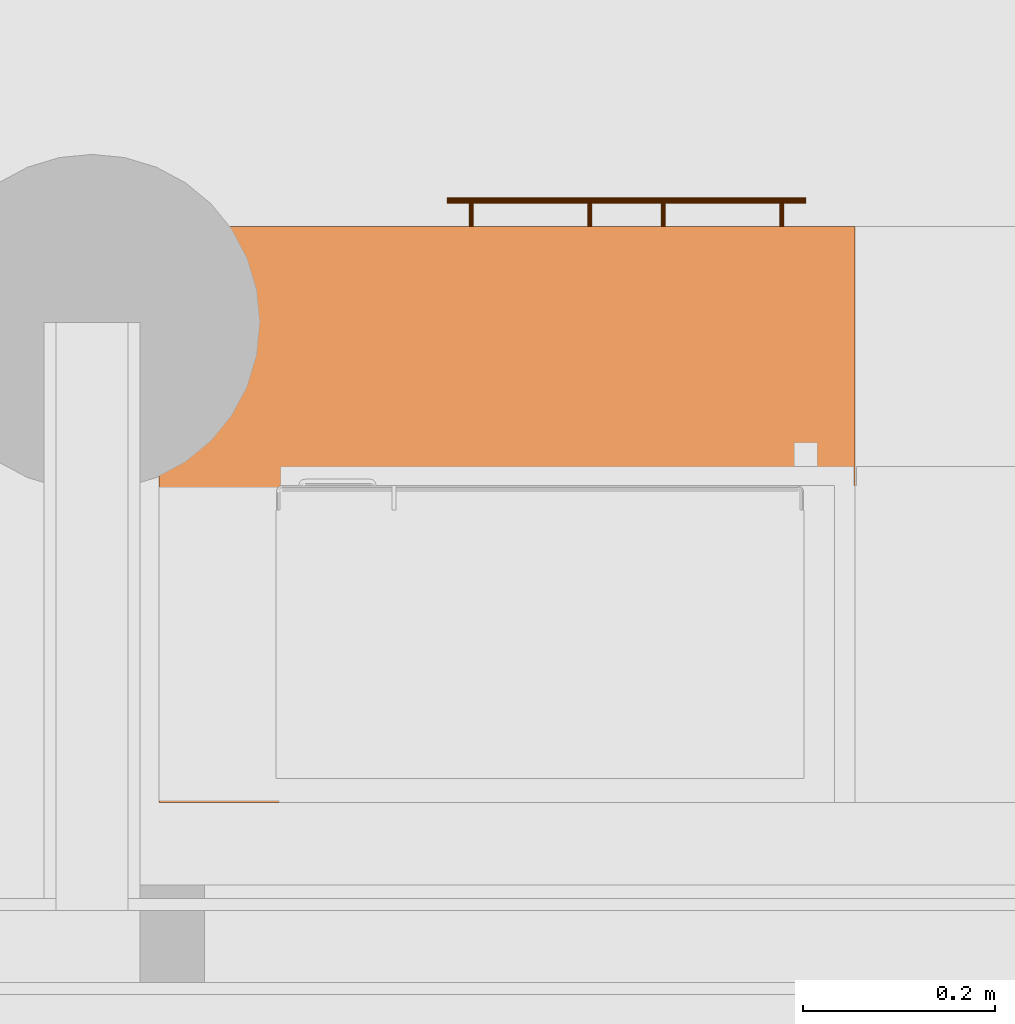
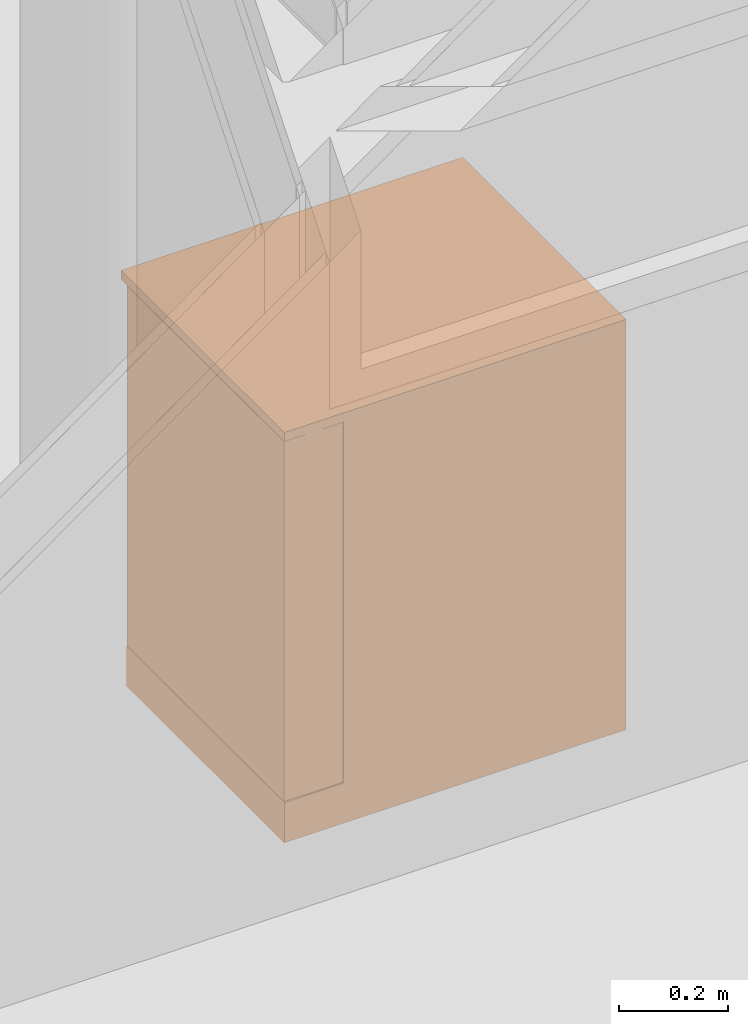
# One storey, part 158 of 167: 1 proxy.
"""IFC2X3 building model written with IfcOpenShell, lengths in millimetres."""

import ifcopenshell
import ifcopenshell.guid

model = None  # the IFC model being written
_history = None  # IfcOwnerHistory: only IFC2X3 demands one
_inside = {}  # id of a spatial element -> (the spatial element, [elements in it])
_under = {}  # id of a project, library or spatial element -> (it, [spatial elements below it])
_declared = {}  # id of a project -> (the project, [libraries it declares])
_typed = {}  # id of a type object -> (the type object, [elements of that type])
_made_of = {}  # id of a material, layer set ... -> (it, [elements and type objects made of it])


def new_model(schema):
    """Start an empty IFC model of exactly this schema.

    Asked for "IFC4X3", IfcOpenShell would pick the latest addendum, in which some entities
    have other attributes; the version numbers below select the first issue.
    IFC2X3 requires an IfcOwnerHistory on every rooted entity: one is made here for all.
    """
    global model, _history
    if schema == "IFC4X3":
        model = ifcopenshell.file(schema_version=(4, 3, 0, 0))
    else:
        model = ifcopenshell.file(schema=schema)
    _inside.clear()
    _under.clear()
    _declared.clear()
    _typed.clear()
    _made_of.clear()
    _history = None
    if model.schema == "IFC2X3":
        org = make("IfcOrganization", Name="unknown")
        user = make(
            "IfcPersonAndOrganization",
            ThePerson=make("IfcPerson", FamilyName="unknown"),
            TheOrganization=org,
        )
        app = make(
            "IfcApplication",
            ApplicationDeveloper=org,
            Version="unknown",
            ApplicationFullName="unknown",
            ApplicationIdentifier="unknown",
        )
        _history = make(
            "IfcOwnerHistory",
            OwningUser=user,
            OwningApplication=app,
            ChangeAction="ADDED",
            CreationDate=0,
        )
    return model


def make(cls, **values):
    """One entity of the class cls with the attributes given. An attribute that is None is left unset."""
    return model.create_entity(
        cls, **{name: value for name, value in values.items() if value is not None}
    )


def entity(cls, *values):
    """Any entity or typed value of the class cls, its attributes in the order of the schema. None: left unset."""
    e = model.create_entity(cls)
    for i, value in enumerate(values):
        if value is not None:
            e[i] = value
    return e


def rooted(cls, **values):
    """An entity with a GlobalId (a new one), such as an element, a storey or a relation."""
    return make(cls, GlobalId=ifcopenshell.guid.new(), OwnerHistory=_history, **values)


def si_unit(unit_type, name, prefix=None):
    """IfcSIUnit, for example si_unit("LENGTHUNIT", "METRE", prefix="MILLI")."""
    return make("IfcSIUnit", UnitType=unit_type, Prefix=prefix, Name=name)


def converted_unit(unit_type, name, factor, base, dimensions=None, offset=None):
    """IfcConversionBasedUnit, such as the inch: factor (a typed value) times the base unit."""
    return make(
        "IfcConversionBasedUnit"
        if offset is None
        else "IfcConversionBasedUnitWithOffset",
        ConversionOffset=offset,
        Dimensions=None
        if dimensions is None
        else entity("IfcDimensionalExponents", *dimensions),
        UnitType=unit_type,
        Name=name,
        ConversionFactor=make(
            "IfcMeasureWithUnit", ValueComponent=factor, UnitComponent=base
        ),
    )


def derived_unit(unit_type, elements):
    """IfcDerivedUnit: a product of units, each with its exponent."""
    return make(
        "IfcDerivedUnit",
        Elements=[
            make("IfcDerivedUnitElement", Unit=unit, Exponent=power)
            for unit, power in elements
        ],
        UnitType=unit_type,
    )


def money_unit(currency):
    """IfcMonetaryUnit."""
    return make("IfcMonetaryUnit", Currency=currency)


def assignment(units):
    """IfcUnitAssignment: the units of a project."""
    return None if units is None else make("IfcUnitAssignment", Units=units)


def point(xyz):
    """IfcCartesianPoint."""
    return None if xyz is None else make("IfcCartesianPoint", Coordinates=xyz)


def direction(xyz):
    """IfcDirection."""
    return None if xyz is None else make("IfcDirection", DirectionRatios=xyz)


def frame(location, z_axis=None, x_axis=None):
    """IfcAxis2Placement3D, a coordinate frame: its origin and axes. An axis left out is left unset."""
    return make(
        "IfcAxis2Placement3D",
        Location=point(location),
        Axis=direction(z_axis),
        RefDirection=direction(x_axis),
    )


def origin_with_axes():
    """The frame at (0, 0, 0) with the z axis (0, 0, 1) and the x axis (1, 0, 0) written out."""
    return frame((0.0, 0.0, 0.0), z_axis=(0.0, 0.0, 1.0), x_axis=(1.0, 0.0, 0.0))


def place(relative_to, where):
    """IfcLocalPlacement: puts the frame where relative to a parent placement (None: the world)."""
    return make(
        "IfcLocalPlacement", PlacementRelTo=relative_to, RelativePlacement=where
    )


def context(
    kind, dimensions, precision=None, world=None, true_north=None, identifier=None
):
    """IfcGeometricRepresentationContext, for example the 3D "Model" context."""
    return make(
        "IfcGeometricRepresentationContext",
        ContextIdentifier=identifier,
        ContextType=kind,
        CoordinateSpaceDimension=dimensions,
        Precision=precision,
        WorldCoordinateSystem=world,
        TrueNorth=true_north,
    )


def subcontext(parent, identifier, kind, view, scale=None):
    """IfcGeometricRepresentationSubContext, for example "Body" below "Model"."""
    return make(
        "IfcGeometricRepresentationSubContext",
        ContextIdentifier=identifier,
        ContextType=kind,
        ParentContext=parent,
        TargetScale=scale,
        TargetView=view,
    )


def project(units=None, contexts=None):
    """IfcProject with its units and contexts."""
    return rooted(
        "IfcProject",
        Name="project",
        RepresentationContexts=contexts,
        UnitsInContext=assignment(units),
    )


def spatial(cls, under=None, at=None, **own):
    """A site, building, storey or space (cls), placed at a placement, below another one or the project."""
    s = rooted(cls, ObjectPlacement=at, **own)
    if under is not None:
        _under.setdefault(under.id(), (under, []))[1].append(s)
    return s


def faces_of(points, faces, orient=None, outer=None):
    """IfcFace entities. A face is a list of loops; a loop is a list of indices into points, from 0.

    orient and outer hold one flag for each loop. By default every Orientation is true, the
    first loop of a face is its IfcFaceOuterBound and the others are IfcFaceBound.
    """
    made = []
    for i, loops in enumerate(faces):
        bounds = []
        for j, loop in enumerate(loops):
            is_outer = j == 0 if outer is None else outer[i][j]
            bounds.append(
                make(
                    "IfcFaceOuterBound" if is_outer else "IfcFaceBound",
                    Bound=make("IfcPolyLoop", Polygon=[points[k] for k in loop]),
                    Orientation=True if orient is None else orient[i][j],
                )
            )
        made.append(make("IfcFace", Bounds=bounds))
    return made


def open_shell(faces, orient=None, outer=None):
    """The faces of one IfcOpenShell. surface_model builds it on its shared points."""
    return ("IfcOpenShell", faces, orient, outer)


def faceted_brep(points, faces, orient=None, outer=None, voids=None):
    """IfcFacetedBrep: a solid bounded by flat faces; with voids (closed shells), ...WithVoids."""
    shared = [point(p) for p in points]
    hull = make("IfcClosedShell", CfsFaces=faces_of(shared, faces, orient, outer))
    if voids is None:
        return make("IfcFacetedBrep", Outer=hull)
    return make(
        "IfcFacetedBrepWithVoids",
        Outer=hull,
        Voids=[
            make(cls, CfsFaces=faces_of(shared, fs, o, b)) for cls, fs, o, b in voids
        ],
    )


def surface_model(cls, points, shells):
    """IfcFaceBasedSurfaceModel or IfcShellBasedSurfaceModel (cls): surfaces that need not close."""
    shared = [point(p) for p in points]
    made = [make(c, CfsFaces=faces_of(shared, fs, o, b)) for c, fs, o, b in shells]
    if cls == "IfcFaceBasedSurfaceModel":
        return make(cls, FbsmFaces=made)
    return make(cls, SbsmBoundary=made)


def shape(context_of_items, identifier, shape_type, items):
    """IfcShapeRepresentation: the items that make up one representation, for example the "Body"."""
    return make(
        "IfcShapeRepresentation",
        ContextOfItems=context_of_items,
        RepresentationIdentifier=identifier,
        RepresentationType=shape_type,
        Items=items,
    )


def made_of(thing, what):
    """Note that an element or type object is made of a material, layer set ...; save() writes the relation."""
    if what is not None:
        _made_of.setdefault(what.id(), (what, []))[1].append(thing)
    return thing


def type_object(cls, material=None, **own):
    """A type object (cls), such as IfcWallType, which elements share."""
    return made_of(rooted(cls, **own), material)


def element(
    cls,
    number,
    at=None,
    inside=None,
    cuts=None,
    type_object=None,
    material=None,
    context=None,
    identifier="Body",
    shape_type=None,
    held_by="IfcProductDefinitionShape",
    body=None,
    shapes=None,
    **own,
):
    """One element of the class cls, such as IfcWall. Its Tag is "e" and its number.

    at: its placement. inside: the storey or other place that contains it. cuts: it is an
    opening in that element (IfcRelVoidsElement). A single representation is given by context,
    identifier, shape_type and body (its items); several are given by shapes. held_by: the class
    of the entity that holds the representations. save() writes the other relations.
    """
    e = rooted(cls, Tag="e%d" % number, ObjectPlacement=at, **own)
    if body is not None:
        shapes = [shape(context, identifier, shape_type, body)]
    if shapes is not None:
        e.Representation = make(held_by, Representations=shapes)
    if inside is not None:
        _inside.setdefault(inside.id(), (inside, []))[1].append(e)
    if cuts is not None:
        rooted(
            "IfcRelVoidsElement", RelatingBuildingElement=cuts, RelatedOpeningElement=e
        )
    if type_object is not None:
        _typed.setdefault(type_object.id(), (type_object, []))[1].append(e)
    return made_of(e, material)


def aggregate(whole, parts):
    """IfcRelAggregates: a whole, such as a stair, and the parts it consists of."""
    return rooted("IfcRelAggregates", RelatingObject=whole, RelatedObjects=parts)


def save(model, path):
    """Write the relations noted so far, then the file.

    IfcRelAggregates (storeys below a building ...), IfcRelContainedInSpatialStructure (elements
    in a storey), IfcRelDefinesByType, IfcRelAssociatesMaterial and IfcRelDeclares: one each for
    every whole, place, type object, material and project.
    """
    for whole, parts in _under.values():
        aggregate(whole, parts)
    for where, things in _inside.values():
        rooted(
            "IfcRelContainedInSpatialStructure",
            RelatedElements=things,
            RelatingStructure=where,
        )
    for kind, things in _typed.values():
        rooted("IfcRelDefinesByType", RelatedObjects=things, RelatingType=kind)
    for what, things in _made_of.values():
        rooted("IfcRelAssociatesMaterial", RelatedObjects=things, RelatingMaterial=what)
    for by, libraries in _declared.values():
        rooted("IfcRelDeclares", RelatingContext=by, RelatedDefinitions=libraries)
    model.write(path)


model = new_model("IFC2X3")

# Units and contexts
model_context = context("Model", 3, precision=0.01, world=origin_with_axes(), true_north=direction((0.0, 1.0)))
plan_context = context("Plan", 3, precision=0.01, world=origin_with_axes(), true_north=direction((0.0, 1.0)))
body_context = subcontext(model_context, "Body", "Model", "MODEL_VIEW")
ifc_project = project(units=[si_unit("LENGTHUNIT", "METRE", prefix="MILLI"), si_unit("AREAUNIT", "SQUARE_METRE"), si_unit("VOLUMEUNIT", "CUBIC_METRE"), converted_unit("PLANEANGLEUNIT", "DEGREE", entity("IfcPlaneAngleMeasure", 0.0174532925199), si_unit("PLANEANGLEUNIT", "RADIAN"), dimensions=[0, 0, 0, 0, 0, 0, 0]), si_unit("SOLIDANGLEUNIT", "STERADIAN"), money_unit("EUR"), converted_unit("TIMEUNIT", "Year", entity("IfcTimeMeasure", 31556926.0), si_unit("TIMEUNIT", "SECOND"), dimensions=[0, 0, 1, 0, 0, 0, 0]), si_unit("MASSUNIT", "GRAM", prefix="KILO"), si_unit("THERMODYNAMICTEMPERATUREUNIT", "DEGREE_CELSIUS"), si_unit("LUMINOUSINTENSITYUNIT", "LUMEN"), si_unit("ENERGYUNIT", "JOULE", prefix="MEGA"), derived_unit("THERMALCONDUCTANCEUNIT", [(si_unit("POWERUNIT", "WATT"), 1), (si_unit("LENGTHUNIT", "METRE"), -1), (si_unit("THERMODYNAMICTEMPERATUREUNIT", "KELVIN"), -1)]), derived_unit("SPECIFICHEATCAPACITYUNIT", [(si_unit("ENERGYUNIT", "JOULE"), 1), (si_unit("MASSUNIT", "GRAM", prefix="KILO"), -1), (si_unit("THERMODYNAMICTEMPERATUREUNIT", "KELVIN"), -1)]), derived_unit("MASSDENSITYUNIT", [(si_unit("MASSUNIT", "GRAM", prefix="KILO"), 1), (si_unit("VOLUMEUNIT", "CUBIC_METRE"), -1)])], contexts=[model_context, plan_context])

# Site, building, storey
site_placement = place(None, origin_with_axes())
site = spatial("IfcSite", under=ifc_project, at=site_placement, Name="Site", CompositionType="ELEMENT")
building_placement = place(site_placement, origin_with_axes())
building = spatial("IfcBuilding", under=site, at=building_placement, Name="Naam gebouw", CompositionType="ELEMENT")
storey_placement = place(building_placement, origin_with_axes())
storey = spatial("IfcBuildingStorey", under=building, at=storey_placement, Name="Begane grond", CompositionType="ELEMENT", Elevation=0.0)

# Proxy
building_element_proxy_type = type_object("IfcBuildingElementProxyType", Name="Kast basis 1D 24", PredefinedType="NOTDEFINED")
proxy_placement = place(storey_placement, frame((36069.9999937, 42449.9999795, 0.0), z_axis=(0.0, 0.0, 1.0), x_axis=(-1.0, 0.0, 0.0)))
element("IfcBuildingElementProxy", 1, at=proxy_placement, inside=storey, type_object=building_element_proxy_type, Name="__Object-x", context=body_context, shape_type="SurfaceModel", body=[
    faceted_brep([(-145.0, 20.0, 760.0), (-145.0, 20.0, 780.0), (-705.0, 20.0, 780.0), (-705.0, 20.0, 760.0), (-145.0, 580.0, 760.0), (-145.0, 580.0, 780.0), (-705.0, 580.0, 780.0), (-705.0, 580.0, 760.0)], [[[0, 1, 2, 3]], [[4, 5, 1, 0]], [[1, 5, 6, 2]], [[3, 2, 6, 7]], [[0, 3, 7, 4]], [[7, 6, 5, 4]]]),
    faceted_brep([(0.0, 20.0, 0.0), (0.0, 20.0, 90.0), (-725.0, 20.0, 90.0), (-725.0, 20.0, 0.0), (0.0, 600.0, 0.0), (0.0, 600.0, 90.0), (-725.0, 600.0, 90.0), (-725.0, 600.0, 0.0)], [[[0, 1, 2, 3]], [[4, 5, 1, 0]], [[1, 5, 6, 2]], [[3, 2, 6, 7]], [[0, 3, 7, 4]], [[7, 6, 5, 4]]]),
    faceted_brep([(-125.0, 20.0, 880.0), (-125.0, 20.0, 900.0), (-145.0, 20.0, 900.0), (-145.0, 20.0, 880.0), (-125.0, 600.0, 880.0), (-125.0, 600.0, 900.0), (-145.0, 600.0, 900.0), (-705.0, 600.0, 900.0), (-725.0, 600.0, 900.0), (-725.0, 20.0, 900.0), (-705.0, 20.0, 900.0), (-705.0, 20.0, 880.0), (-725.0, 20.0, 880.0), (-725.0, 600.0, 880.0), (-705.0, 600.0, 880.0), (-145.0, 600.0, 880.0)], [[[0, 1, 2, 3]], [[4, 5, 1, 0]], [[1, 5, 6, 7, 8, 9, 10, 2]], [[3, 2, 10, 11]], [[0, 3, 11, 12, 13, 14, 15, 4]], [[15, 6, 5, 4]], [[14, 7, 6, 15]], [[13, 8, 7, 14]], [[12, 9, 8, 13]], [[11, 10, 9, 12]]]),
    faceted_brep([(-125.0, 20.0, 90.0), (-125.0, 20.0, 110.0), (-145.0, 20.0, 110.0), (-145.0, 20.0, 90.0), (-125.0, 600.0, 90.0), (-125.0, 600.0, 110.0), (-145.0, 600.0, 110.0), (-705.0, 600.0, 110.0), (-725.0, 600.0, 110.0), (-725.0, 20.0, 110.0), (-705.0, 20.0, 110.0), (-705.0, 20.0, 90.0), (-725.0, 20.0, 90.0), (-725.0, 600.0, 90.0), (-705.0, 600.0, 90.0), (-145.0, 600.0, 90.0)], [[[0, 1, 2, 3]], [[4, 5, 1, 0]], [[1, 5, 6, 7, 8, 9, 10, 2]], [[3, 2, 10, 11]], [[0, 3, 11, 12, 13, 14, 15, 4]], [[15, 6, 5, 4]], [[14, 7, 6, 15]], [[13, 8, 7, 14]], [[12, 9, 8, 13]], [[11, 10, 9, 12]]]),
    faceted_brep([(-125.0, 20.0, 110.0), (-125.0, 20.0, 880.0), (-145.0, 20.0, 880.0), (-145.0, 20.0, 110.0), (-125.0, 600.0, 110.0), (-125.0, 600.0, 880.0), (-725.0, 600.0, 880.0), (-725.0, 20.0, 880.0), (-705.0, 20.0, 880.0), (-705.0, 580.0, 880.0), (-145.0, 580.0, 880.0), (-145.0, 580.0, 110.0), (-705.0, 580.0, 110.0), (-705.0, 20.0, 110.0), (-725.0, 20.0, 110.0), (-725.0, 600.0, 110.0)], [[[0, 1, 2, 3]], [[4, 5, 1, 0]], [[1, 5, 6, 7, 8, 9, 10, 2]], [[3, 2, 10, 11]], [[0, 3, 11, 12, 13, 14, 15, 4]], [[15, 6, 5, 4]], [[14, 7, 6, 15]], [[13, 8, 7, 14]], [[12, 9, 8, 13]], [[11, 10, 9, 12]]]),
    faceted_brep([(-705.0, 20.0, 410.0), (-705.0, 20.0, 430.0), (-705.0, 580.0, 430.0), (-705.0, 580.0, 410.0), (-145.0, 20.0, 410.0), (-145.0, 20.0, 430.0), (-145.0, 580.0, 430.0), (-145.0, 580.0, 410.0)], [[[0, 1, 2, 3]], [[4, 5, 1, 0]], [[1, 5, 6, 2]], [[3, 2, 6, 7]], [[0, 3, 7, 4]], [[7, 6, 5, 4]]]),
    faceted_brep([(0.0, 0.0, 900.0), (0.0, 0.0, 920.0), (-725.0, 0.0, 920.0), (-725.0, 0.0, 900.0), (0.0, 600.0, 900.0), (0.0, 600.0, 920.0), (-725.0, 600.0, 920.0), (-725.0, 600.0, 900.0)], [[[0, 1, 2, 3]], [[4, 5, 1, 0]], [[1, 5, 6, 2]], [[3, 2, 6, 7]], [[0, 3, 7, 4]], [[7, 6, 5, 4]]]),
    faceted_brep([(-126.5, 20.0, 771.5), (-126.5, 0.0, 771.5), (-723.5, 0.0, 771.5), (-723.5, 20.0, 771.5), (-126.5, 20.0, 898.5), (-126.5, 0.0, 898.5), (-723.5, 0.0, 898.5), (-723.5, 20.0, 898.5)], [[[0, 1, 2, 3]], [[4, 5, 1, 0]], [[1, 5, 6, 2]], [[3, 2, 6, 7]], [[0, 3, 7, 4]], [[7, 6, 5, 4]]]),
    faceted_brep([(-300.0, -28.1480502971, 832.228361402), (-300.0, -27.0, 832.0), (-300.0, -25.8519497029, 832.228361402), (-300.0, -24.8786796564, 832.878679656), (-300.0, -24.2283614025, 833.851949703), (-300.0, -24.0, 835.0), (-300.0, -24.2283614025, 836.148050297), (-300.0, -24.8786796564, 837.121320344), (-300.0, -25.8519497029, 837.771638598), (-300.0, -27.0, 838.0), (-300.0, -28.1480502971, 837.771638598), (-300.0, -29.1213203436, 837.121320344), (-300.0, -29.7716385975, 836.148050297), (-300.0, -30.0, 835.0), (-300.0, -29.7716385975, 833.851949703), (-300.0, -29.1213203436, 832.878679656), (-550.0, -28.1480502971, 832.228361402), (-550.0, -27.0, 832.0), (-550.0, -25.8519497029, 832.228361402), (-550.0, -24.8786796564, 832.878679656), (-550.0, -24.2283614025, 833.851949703), (-550.0, -24.0, 835.0), (-550.0, -24.2283614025, 836.148050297), (-550.0, -24.8786796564, 837.121320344), (-550.0, -25.8519497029, 837.771638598), (-550.0, -27.0, 838.0), (-550.0, -28.1480502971, 837.771638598), (-550.0, -29.1213203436, 837.121320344), (-550.0, -29.7716385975, 836.148050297), (-550.0, -30.0, 835.0), (-550.0, -29.7716385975, 833.851949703), (-550.0, -29.1213203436, 832.878679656)], [[[0, 1, 2, 3, 4, 5, 6, 7, 8, 9, 10, 11, 12, 13, 14, 15]], [[0, 16, 17, 1]], [[1, 17, 18, 2]], [[2, 18, 19, 3]], [[3, 19, 20, 4]], [[4, 20, 21, 5]], [[5, 21, 22, 6]], [[6, 22, 23, 7]], [[7, 23, 24, 8]], [[8, 24, 25, 9]], [[9, 25, 26, 10]], [[10, 26, 27, 11]], [[11, 27, 28, 12]], [[12, 28, 29, 13]], [[13, 29, 30, 14]], [[14, 30, 31, 15]], [[15, 31, 16, 0]], [[16, 31, 30, 29, 28, 27, 26, 25, 24, 23, 22, 21, 20, 19, 18, 17]]]),
    surface_model("IfcShellBasedSurfaceModel", [(-322.690301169, -24.156637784, 834.043291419), (-322.690301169, 0.0, 834.043291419), (-322.5, 0.0, 835.0), (-322.5, -24.0, 835.0), (-323.232233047, -24.5761600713, 833.232233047), (-323.232233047, 0.0, 833.232233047), (-324.043291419, 0.0, 832.690301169), (-325.0, 0.0, 832.5), (-325.956708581, 0.0, 832.690301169), (-326.767766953, 0.0, 833.232233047), (-327.309698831, 0.0, 834.043291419), (-327.5, 0.0, 835.0), (-327.309698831, 0.0, 835.956708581), (-326.767766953, 0.0, 836.767766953), (-325.956708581, 0.0, 837.309698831), (-325.0, 0.0, 837.5), (-324.043291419, 0.0, 837.309698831), (-323.232233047, 0.0, 836.767766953), (-322.690301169, 0.0, 835.956708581), (-322.690301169, -24.156637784, 835.956708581), (-324.043291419, -25.0855049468, 832.690301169), (-325.0, -25.3416876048, 832.5), (-325.956708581, -25.0855049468, 832.690301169), (-326.767766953, -24.5761600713, 833.232233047), (-327.309698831, -24.156637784, 834.043291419), (-327.5, -24.0, 835.0), (-327.309698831, -24.156637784, 835.956708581), (-326.767766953, -24.5761600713, 836.767766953), (-325.956708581, -25.0855049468, 837.309698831), (-325.0, -25.3416876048, 837.5), (-324.043291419, -25.0855049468, 837.309698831), (-323.232233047, -24.5761600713, 836.767766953)], [open_shell([[[0, 1, 2, 3]], [[4, 5, 1, 0]], [[1, 5, 6, 7, 8, 9, 10, 11, 12, 13, 14, 15, 16, 17, 18, 2]], [[3, 2, 18, 19]], [[20, 6, 5, 4]], [[21, 7, 6, 20]], [[22, 8, 7, 21]], [[23, 9, 8, 22]], [[24, 10, 9, 23]], [[25, 11, 10, 24]], [[26, 12, 11, 25]], [[27, 13, 12, 26]], [[28, 14, 13, 27]], [[29, 15, 14, 28]], [[30, 16, 15, 29]], [[31, 17, 16, 30]], [[19, 18, 17, 31]]])]),
    surface_model("IfcShellBasedSurfaceModel", [(-522.690301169, -24.156637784, 834.043291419), (-522.690301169, 0.0, 834.043291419), (-522.5, 0.0, 835.0), (-522.5, -24.0, 835.0), (-523.232233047, -24.5761600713, 833.232233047), (-523.232233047, 0.0, 833.232233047), (-524.043291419, 0.0, 832.690301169), (-525.0, 0.0, 832.5), (-525.956708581, 0.0, 832.690301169), (-526.767766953, 0.0, 833.232233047), (-527.309698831, 0.0, 834.043291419), (-527.5, 0.0, 835.0), (-527.309698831, 0.0, 835.956708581), (-526.767766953, 0.0, 836.767766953), (-525.956708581, 0.0, 837.309698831), (-525.0, 0.0, 837.5), (-524.043291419, 0.0, 837.309698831), (-523.232233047, 0.0, 836.767766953), (-522.690301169, 0.0, 835.956708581), (-522.690301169, -24.156637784, 835.956708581), (-524.043291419, -25.0855049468, 832.690301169), (-525.0, -25.3416876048, 832.5), (-525.956708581, -25.0855049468, 832.690301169), (-526.767766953, -24.5761600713, 833.232233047), (-527.309698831, -24.156637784, 834.043291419), (-527.5, -24.0, 835.0), (-527.309698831, -24.156637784, 835.956708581), (-526.767766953, -24.5761600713, 836.767766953), (-525.956708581, -25.0855049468, 837.309698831), (-525.0, -25.3416876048, 837.5), (-524.043291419, -25.0855049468, 837.309698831), (-523.232233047, -24.5761600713, 836.767766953)], [open_shell([[[0, 1, 2, 3]], [[4, 5, 1, 0]], [[1, 5, 6, 7, 8, 9, 10, 11, 12, 13, 14, 15, 16, 17, 18, 2]], [[3, 2, 18, 19]], [[20, 6, 5, 4]], [[21, 7, 6, 20]], [[22, 8, 7, 21]], [[23, 9, 8, 22]], [[24, 10, 9, 23]], [[25, 11, 10, 24]], [[26, 12, 11, 25]], [[27, 13, 12, 26]], [[28, 14, 13, 27]], [[29, 15, 14, 28]], [[30, 16, 15, 29]], [[31, 17, 16, 30]], [[19, 18, 17, 31]]])]),
    faceted_brep([(-126.5, 20.0, 91.5), (-126.5, 0.0, 91.5), (-723.5, 0.0, 91.5), (-723.5, 20.0, 91.5), (-126.5, 20.0, 768.5), (-126.5, 0.0, 768.5), (-723.5, 0.0, 768.5), (-723.5, 20.0, 768.5)], [[[0, 1, 2, 3]], [[4, 5, 1, 0]], [[1, 5, 6, 2]], [[3, 2, 6, 7]], [[0, 3, 7, 4]], [[7, 6, 5, 4]]]),
    faceted_brep([(-423.5, -28.1480502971, 685.728361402), (-423.5, -27.0, 685.5), (-423.5, -25.8519497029, 685.728361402), (-423.5, -24.8786796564, 686.378679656), (-423.5, -24.2283614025, 687.351949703), (-423.5, -24.0, 688.5), (-423.5, -24.2283614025, 689.648050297), (-423.5, -24.8786796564, 690.621320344), (-423.5, -25.8519497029, 691.271638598), (-423.5, -27.0, 691.5), (-423.5, -28.1480502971, 691.271638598), (-423.5, -29.1213203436, 690.621320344), (-423.5, -29.7716385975, 689.648050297), (-423.5, -30.0, 688.5), (-423.5, -29.7716385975, 687.351949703), (-423.5, -29.1213203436, 686.378679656), (-673.5, -28.1480502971, 685.728361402), (-673.5, -27.0, 685.5), (-673.5, -25.8519497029, 685.728361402), (-673.5, -24.8786796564, 686.378679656), (-673.5, -24.2283614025, 687.351949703), (-673.5, -24.0, 688.5), (-673.5, -24.2283614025, 689.648050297), (-673.5, -24.8786796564, 690.621320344), (-673.5, -25.8519497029, 691.271638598), (-673.5, -27.0, 691.5), (-673.5, -28.1480502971, 691.271638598), (-673.5, -29.1213203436, 690.621320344), (-673.5, -29.7716385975, 689.648050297), (-673.5, -30.0, 688.5), (-673.5, -29.7716385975, 687.351949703), (-673.5, -29.1213203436, 686.378679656)], [[[0, 1, 2, 3, 4, 5, 6, 7, 8, 9, 10, 11, 12, 13, 14, 15]], [[0, 16, 17, 1]], [[1, 17, 18, 2]], [[2, 18, 19, 3]], [[3, 19, 20, 4]], [[4, 20, 21, 5]], [[5, 21, 22, 6]], [[6, 22, 23, 7]], [[7, 23, 24, 8]], [[8, 24, 25, 9]], [[9, 25, 26, 10]], [[10, 26, 27, 11]], [[11, 27, 28, 12]], [[12, 28, 29, 13]], [[13, 29, 30, 14]], [[14, 30, 31, 15]], [[15, 31, 16, 0]], [[16, 31, 30, 29, 28, 27, 26, 25, 24, 23, 22, 21, 20, 19, 18, 17]]]),
    surface_model("IfcShellBasedSurfaceModel", [(-446.190301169, -24.156637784, 687.543291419), (-446.190301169, 0.0, 687.543291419), (-446.0, 0.0, 688.5), (-446.0, -24.0, 688.5), (-446.732233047, -24.5761600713, 686.732233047), (-446.732233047, 0.0, 686.732233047), (-447.543291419, 0.0, 686.190301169), (-448.5, 0.0, 686.0), (-449.456708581, 0.0, 686.190301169), (-450.267766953, 0.0, 686.732233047), (-450.809698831, 0.0, 687.543291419), (-451.0, 0.0, 688.5), (-450.809698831, 0.0, 689.456708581), (-450.267766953, 0.0, 690.267766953), (-449.456708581, 0.0, 690.809698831), (-448.5, 0.0, 691.0), (-447.543291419, 0.0, 690.809698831), (-446.732233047, 0.0, 690.267766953), (-446.190301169, 0.0, 689.456708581), (-446.190301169, -24.156637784, 689.456708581), (-447.543291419, -25.0855049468, 686.190301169), (-448.5, -25.3416876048, 686.0), (-449.456708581, -25.0855049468, 686.190301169), (-450.267766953, -24.5761600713, 686.732233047), (-450.809698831, -24.156637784, 687.543291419), (-451.0, -24.0, 688.5), (-450.809698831, -24.156637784, 689.456708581), (-450.267766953, -24.5761600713, 690.267766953), (-449.456708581, -25.0855049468, 690.809698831), (-448.5, -25.3416876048, 691.0), (-447.543291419, -25.0855049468, 690.809698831), (-446.732233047, -24.5761600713, 690.267766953)], [open_shell([[[0, 1, 2, 3]], [[4, 5, 1, 0]], [[1, 5, 6, 7, 8, 9, 10, 11, 12, 13, 14, 15, 16, 17, 18, 2]], [[3, 2, 18, 19]], [[20, 6, 5, 4]], [[21, 7, 6, 20]], [[22, 8, 7, 21]], [[23, 9, 8, 22]], [[24, 10, 9, 23]], [[25, 11, 10, 24]], [[26, 12, 11, 25]], [[27, 13, 12, 26]], [[28, 14, 13, 27]], [[29, 15, 14, 28]], [[30, 16, 15, 29]], [[31, 17, 16, 30]], [[19, 18, 17, 31]]])]),
    surface_model("IfcShellBasedSurfaceModel", [(-646.190301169, -24.156637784, 687.543291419), (-646.190301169, 0.0, 687.543291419), (-646.0, 0.0, 688.5), (-646.0, -24.0, 688.5), (-646.732233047, -24.5761600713, 686.732233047), (-646.732233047, 0.0, 686.732233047), (-647.543291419, 0.0, 686.190301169), (-648.5, 0.0, 686.0), (-649.456708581, 0.0, 686.190301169), (-650.267766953, 0.0, 686.732233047), (-650.809698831, 0.0, 687.543291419), (-651.0, 0.0, 688.5), (-650.809698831, 0.0, 689.456708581), (-650.267766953, 0.0, 690.267766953), (-649.456708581, 0.0, 690.809698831), (-648.5, 0.0, 691.0), (-647.543291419, 0.0, 690.809698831), (-646.732233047, 0.0, 690.267766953), (-646.190301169, 0.0, 689.456708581), (-646.190301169, -24.156637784, 689.456708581), (-647.543291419, -25.0855049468, 686.190301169), (-648.5, -25.3416876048, 686.0), (-649.456708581, -25.0855049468, 686.190301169), (-650.267766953, -24.5761600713, 686.732233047), (-650.809698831, -24.156637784, 687.543291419), (-651.0, -24.0, 688.5), (-650.809698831, -24.156637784, 689.456708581), (-650.267766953, -24.5761600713, 690.267766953), (-649.456708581, -25.0855049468, 690.809698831), (-648.5, -25.3416876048, 691.0), (-647.543291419, -25.0855049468, 690.809698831), (-646.732233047, -24.5761600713, 690.267766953)], [open_shell([[[0, 1, 2, 3]], [[4, 5, 1, 0]], [[1, 5, 6, 7, 8, 9, 10, 11, 12, 13, 14, 15, 16, 17, 18, 2]], [[3, 2, 18, 19]], [[20, 6, 5, 4]], [[21, 7, 6, 20]], [[22, 8, 7, 21]], [[23, 9, 8, 22]], [[24, 10, 9, 23]], [[25, 11, 10, 24]], [[26, 12, 11, 25]], [[27, 13, 12, 26]], [[28, 14, 13, 27]], [[29, 15, 14, 28]], [[30, 16, 15, 29]], [[31, 17, 16, 30]], [[19, 18, 17, 31]]])]),
    faceted_brep([(-125.0, 598.5, 91.5), (0.0, 598.5, 91.5), (0.0, 21.5, 91.5), (-125.0, 21.5, 91.5), (-125.0, 598.5, 898.5), (0.0, 598.5, 898.5), (0.0, 21.5, 898.5), (-125.0, 21.5, 898.5)], [[[0, 1, 2, 3]], [[4, 5, 1, 0]], [[1, 5, 6, 2]], [[3, 2, 6, 7]], [[0, 3, 7, 4]], [[7, 6, 5, 4]]]),
])

save(model, "model.ifc")
